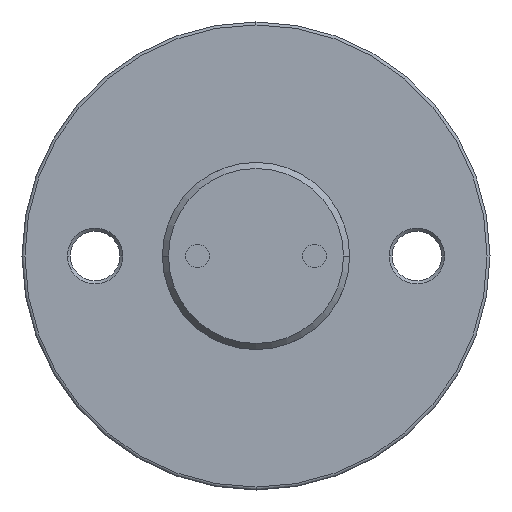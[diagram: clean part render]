
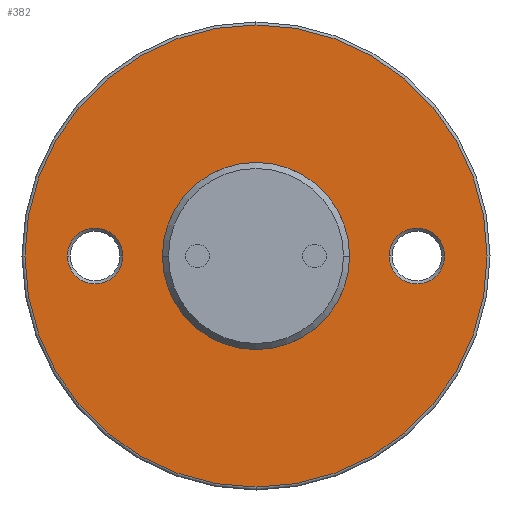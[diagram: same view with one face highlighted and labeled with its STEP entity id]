
A CAD part, front view. The second image highlights one B-rep face of the part: STEP entity #382.
In plain terms, the highlighted planar face has unit normal (0, -1, 0).
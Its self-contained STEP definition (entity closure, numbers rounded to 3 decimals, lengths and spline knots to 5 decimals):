
#382=ADVANCED_FACE('203:262',(#719,#720,#721,#722),#723,.T.);
#719=FACE_OUTER_BOUND('',#7234,.T.);
#720=FACE_BOUND('',#7235,.T.);
#721=FACE_BOUND('',#7236,.T.);
#722=FACE_BOUND('',#7237,.T.);
#723=PLANE('',#7238);
#7234=EDGE_LOOP('',(#8511,#8512));
#7235=EDGE_LOOP('',(#8513,#8514));
#7236=EDGE_LOOP('',(#8515,#8516));
#7237=EDGE_LOOP('',(#8517,#8518));
#7238=AXIS2_PLACEMENT_3D('',#8519,#8520,#8521);
#8511=ORIENTED_EDGE('',*,*,#9017,.F.);
#8512=ORIENTED_EDGE('',*,*,#8986,.F.);
#8513=ORIENTED_EDGE('',*,*,#9018,.F.);
#8514=ORIENTED_EDGE('',*,*,#9006,.F.);
#8515=ORIENTED_EDGE('',*,*,#9019,.T.);
#8516=ORIENTED_EDGE('',*,*,#8992,.T.);
#8517=ORIENTED_EDGE('',*,*,#9016,.F.);
#8518=ORIENTED_EDGE('',*,*,#9013,.F.);
#8519=CARTESIAN_POINT('',(0.0395,0.0,0.));
#8520=DIRECTION('',(0.0,-1.0,0.0));
#8521=DIRECTION('',(0.,0.0,-1.0));
#8986=EDGE_CURVE('203:301',#9664,#9667,#9668,.T.);
#8992=EDGE_CURVE('203:307',#9672,#9676,#9678,.T.);
#9006=EDGE_CURVE('203:304',#9701,#9703,#9704,.T.);
#9013=EDGE_CURVE('203:298',#9712,#9714,#9715,.T.);
#9016=EDGE_CURVE('203:298',#9714,#9712,#9718,.T.);
#9017=EDGE_CURVE('203:301',#9667,#9664,#9719,.T.);
#9018=EDGE_CURVE('203:304',#9703,#9701,#9720,.T.);
#9019=EDGE_CURVE('203:307',#9676,#9672,#9721,.T.);
#9664=VERTEX_POINT('',#125158);
#9667=VERTEX_POINT('',#125161);
#9668=CIRCLE('',#125162,0.0395);
#9672=VERTEX_POINT('',#125166);
#9676=VERTEX_POINT('',#125171);
#9678=CIRCLE('',#125174,0.016);
#9701=VERTEX_POINT('',#125203);
#9703=VERTEX_POINT('',#125206);
#9704=CIRCLE('',#125207,0.00475);
#9712=VERTEX_POINT('',#125218);
#9714=VERTEX_POINT('',#125221);
#9715=CIRCLE('',#125222,0.00475);
#9718=CIRCLE('',#125226,0.00475);
#9719=CIRCLE('',#125227,0.0395);
#9720=CIRCLE('',#125228,0.00475);
#9721=CIRCLE('',#125229,0.016);
#125158=CARTESIAN_POINT('',(0.,0.0,0.0395));
#125161=CARTESIAN_POINT('',(0.,0.0,-0.0395));
#125162=AXIS2_PLACEMENT_3D('',#125716,#125717,#125718);
#125166=CARTESIAN_POINT('',(0.016,0.,0.));
#125171=CARTESIAN_POINT('',(-0.016,0.,0.));
#125174=AXIS2_PLACEMENT_3D('',#125730,#125731,#125732);
#125203=CARTESIAN_POINT('',(0.02275,0.0,0.));
#125206=CARTESIAN_POINT('',(0.03225,0.0,0.));
#125207=AXIS2_PLACEMENT_3D('',#125758,#125759,#125760);
#125218=CARTESIAN_POINT('',(-0.03225,0.0,0.));
#125221=CARTESIAN_POINT('',(-0.02275,0.0,0.));
#125222=AXIS2_PLACEMENT_3D('',#125771,#125772,#125773);
#125226=AXIS2_PLACEMENT_3D('',#125778,#125779,#125780);
#125227=AXIS2_PLACEMENT_3D('',#125781,#125782,#125783);
#125228=AXIS2_PLACEMENT_3D('',#125784,#125785,#125786);
#125229=AXIS2_PLACEMENT_3D('',#125787,#125788,#125789);
#125716=CARTESIAN_POINT('',(0.,0.0,0.));
#125717=DIRECTION('',(-0.0,1.0,0.0));
#125718=DIRECTION('',(1.0,0.0,0.));
#125730=CARTESIAN_POINT('',(0.,0.,0.));
#125731=DIRECTION('',(-0.0,1.0,0.0));
#125732=DIRECTION('',(1.0,0.0,0.));
#125758=CARTESIAN_POINT('',(0.0275,0.0,0.));
#125759=DIRECTION('',(0.0,-1.0,-0.0));
#125760=DIRECTION('',(-1.0,0.0,0.));
#125771=CARTESIAN_POINT('',(-0.0275,0.0,0.));
#125772=DIRECTION('',(0.0,-1.0,-0.0));
#125773=DIRECTION('',(-1.0,0.0,0.));
#125778=CARTESIAN_POINT('',(-0.0275,0.0,0.));
#125779=DIRECTION('',(0.0,-1.0,-0.0));
#125780=DIRECTION('',(-1.0,0.0,0.));
#125781=CARTESIAN_POINT('',(0.,0.0,0.));
#125782=DIRECTION('',(-0.0,1.0,0.0));
#125783=DIRECTION('',(1.0,0.0,0.));
#125784=CARTESIAN_POINT('',(0.0275,0.0,0.));
#125785=DIRECTION('',(0.0,-1.0,-0.0));
#125786=DIRECTION('',(-1.0,0.0,0.));
#125787=CARTESIAN_POINT('',(0.,0.,0.));
#125788=DIRECTION('',(-0.0,1.0,0.0));
#125789=DIRECTION('',(1.0,0.0,0.));
